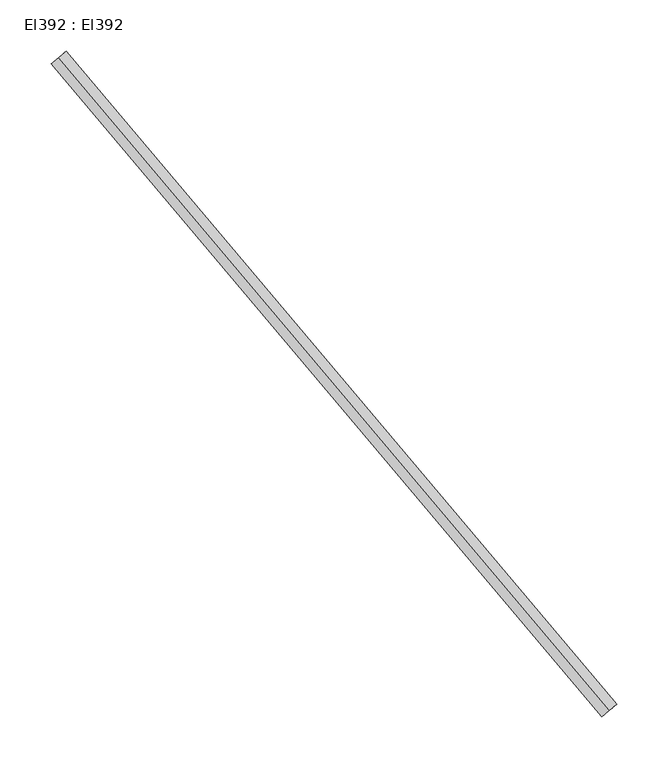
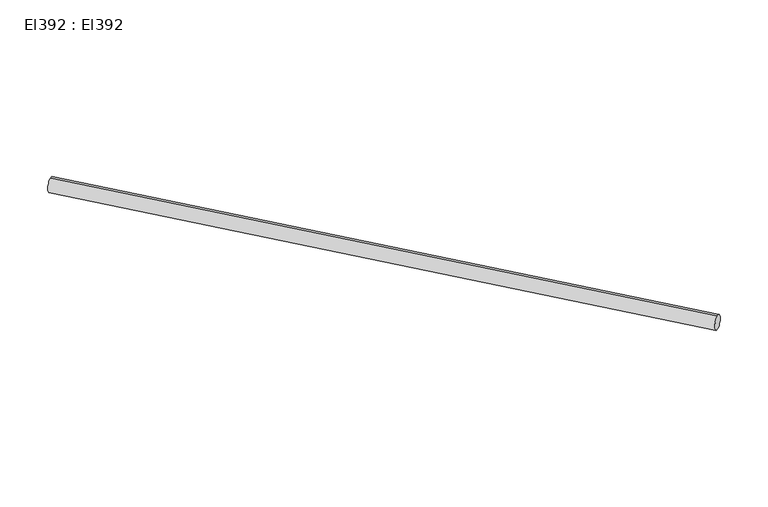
"""IFC4 building model written with IfcOpenShell, lengths in millimetres: cable carrier segment geometry, El392 : El392."""

from ifc_helpers import new_model, si_unit, point, frame, frame_2d, origin, place, context, project, spatial, circle_curve, trimmed, segment, composite_curve, outline, extrude, source, transform, mapped, element, save


def el392_el392_c9594abd(model_context):
    return source(origin(), model_context, "Body", "SweptSolid", [
        extrude(outline(composite_curve([segment(trimmed(circle_curve(frame_2d((0.0, -9.5)), 9.5), [point((0.0, -19.0))], [point((0.0, 0.0))], False, "CARTESIAN"), True, "CONTINUOUS"), segment(trimmed(circle_curve(frame_2d((0.0, -9.5)), 9.5), [point((0.0, 0.0))], [point((0.0, -19.0))], False, "CARTESIAN"), True, "CONTINUOUS")], self_intersect=False)), frame((11648.9242703, 767.7911892, 9.5), z_axis=(-0.6449716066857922, 0.7642065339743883, 0.0), x_axis=(-0.7642065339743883, -0.6449716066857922, 0.0)), (0.0, 0.0, 1.0), 832.051),
    ])


if __name__ == "__main__":
    model = new_model("IFC4")
    model_context = context("Model", 3, world=origin())
    ifc_project = project(units=[si_unit("LENGTHUNIT", "METRE", prefix="MILLI")], contexts=[model_context])
    site = spatial("IfcSite", under=ifc_project)
    building = spatial("IfcBuilding", under=site)
    placement = place(None, origin())
    el392_el392_shape = el392_el392_c9594abd(model_context)
    element("IfcCableCarrierSegment", 1, ObjectType="El392 : El392", at=placement, inside=building, context=model_context, shape_type="MappedRepresentation", body=[
        mapped(el392_el392_shape, transform((0.0, 0.0, 0.0), x_axis=(1.0, 0.0, 0.0), y_axis=(0.0, 1.0, 0.0), z_axis=(0.0, 0.0, 1.0))),
    ])
    save(model, "model.ifc")
